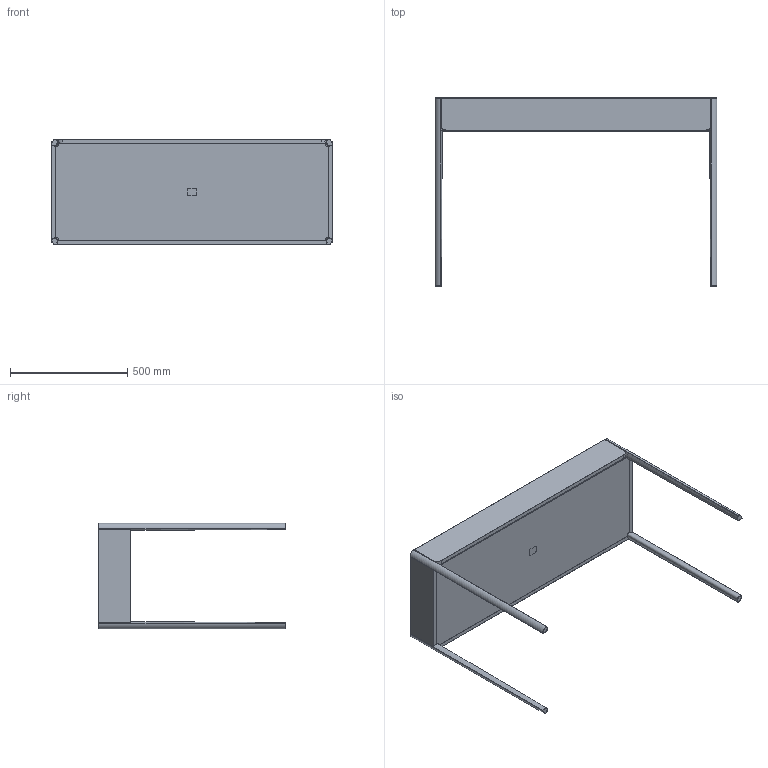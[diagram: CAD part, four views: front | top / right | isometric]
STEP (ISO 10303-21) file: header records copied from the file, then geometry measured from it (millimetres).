
FILE_DESCRIPTION (( 'STEP AP203' ), '1' );
FILE_NAME ('DIORAMA CONSOLE.STEP', '2023-04-19T08:59:29', ( '' ), ( '' ), 'SwSTEP 2.0', 'SolidWorks 2023', '' );
FILE_SCHEMA (( 'CONFIG_CONTROL_DESIGN' ));
Length unit declared in the file: millimetre
Products named in the file (2): Group2^DIORAMA CONSOLE; DIORAMA CONSOLE
Assembly tree (1 placements, depth 2):
  DIORAMA CONSOLE
    Group2^DIORAMA CONSOLE
Bounding box: 1200 x 800 x 450 mm (x, y, z)
Volume: 21804501.2 mm3; surface area: 3200620.2 mm2
Topology: 2 solids, 2 shells, 242 faces, 573 edges, 336 vertices
Faces by surface type: plane 102, bspline 48, cone 42, cylinder 38, sphere 8, torus 4
Entity records: 9277 total; most frequent: CARTESIAN_POINT 3969, ORIENTED_EDGE 1146, DIRECTION 947, EDGE_CURVE 573, AXIS2_PLACEMENT_3D 346, VERTEX_POINT 336, LINE 255, VECTOR 255
